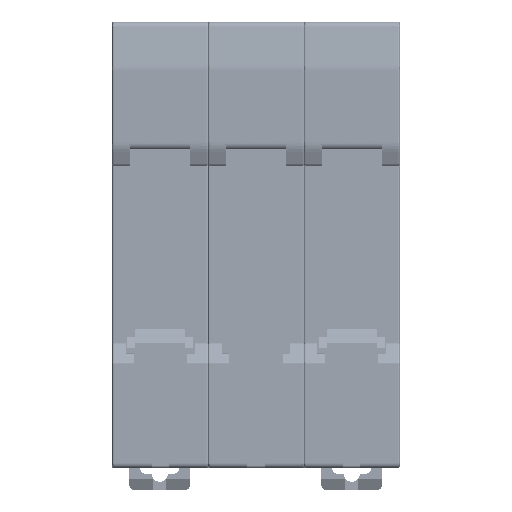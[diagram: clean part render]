
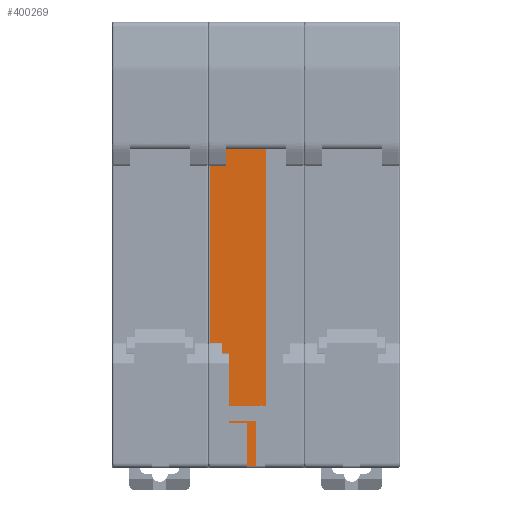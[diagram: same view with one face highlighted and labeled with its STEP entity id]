
A CAD part, left-side view. The second image highlights one B-rep face of the part: STEP entity #400269.
In plain terms, the highlighted planar face has unit normal (-1, 0, 0).
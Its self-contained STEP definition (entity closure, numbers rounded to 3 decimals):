
#1136 = VERTEX_POINT ( 'NONE', #234538 ) ;
#1256 = CARTESIAN_POINT ( 'NONE',  ( 5.5, 35., 10.5 ) ) ;
#4647 = ORIENTED_EDGE ( 'NONE', *, *, #211349, .F. ) ;
#5195 = CARTESIAN_POINT ( 'NONE',  ( 5.5, 35., 57.6 ) ) ;
#5288 = EDGE_CURVE ( 'NONE', #385979, #322072, #307816, .T. ) ;
#9435 = LINE ( 'NONE', #169408, #311618 ) ;
#13591 = VERTEX_POINT ( 'NONE', #399803 ) ;
#14614 = VERTEX_POINT ( 'NONE', #353078 ) ;
#21377 = CARTESIAN_POINT ( 'NONE',  ( 5.5, 24.3, 57.6 ) ) ;
#24129 = DIRECTION ( 'NONE',  ( 0., 0., 1. ) ) ;
#24439 = LINE ( 'NONE', #26426, #65507 ) ;
#24623 = ORIENTED_EDGE ( 'NONE', *, *, #5288, .T. ) ;
#26426 = CARTESIAN_POINT ( 'NONE',  ( 5.5, 33.4, 18.25 ) ) ;
#27771 = EDGE_CURVE ( 'NONE', #50134, #303566, #24439, .T. ) ;
#31351 = ORIENTED_EDGE ( 'NONE', *, *, #73265, .F. ) ;
#31588 = LINE ( 'NONE', #5195, #87133 ) ;
#31700 = CARTESIAN_POINT ( 'NONE',  ( 5.5, 24.3, 10.5 ) ) ;
#37361 = DIRECTION ( 'NONE',  ( 0., -1., 0. ) ) ;
#37622 = LINE ( 'NONE', #1256, #153629 ) ;
#37775 = DIRECTION ( 'NONE',  ( 0., 0., 1. ) ) ;
#39000 = EDGE_CURVE ( 'NONE', #169764, #252499, #37622, .T. ) ;
#39379 = DIRECTION ( 'NONE',  ( 0., 0., -1. ) ) ;
#50134 = VERTEX_POINT ( 'NONE', #111771 ) ;
#53216 = CARTESIAN_POINT ( 'NONE',  ( 5.5, 32.1, 40. ) ) ;
#55212 = VERTEX_POINT ( 'NONE', #124830 ) ;
#55775 = LINE ( 'NONE', #331294, #136066 ) ;
#65507 = VECTOR ( 'NONE', #305962, 1000. ) ;
#70404 = VERTEX_POINT ( 'NONE', #352682 ) ;
#71845 = ORIENTED_EDGE ( 'NONE', *, *, #117505, .F. ) ;
#72461 = EDGE_CURVE ( 'NONE', #13591, #398791, #244189, .T. ) ;
#73265 = EDGE_CURVE ( 'NONE', #55212, #70404, #312908, .T. ) ;
#74841 = ORIENTED_EDGE ( 'NONE', *, *, #39000, .F. ) ;
#76702 = AXIS2_PLACEMENT_3D ( 'NONE', #303836, #90994, #176307 ) ;
#76927 = FACE_OUTER_BOUND ( 'NONE', #243124, .T. ) ;
#77845 = VERTEX_POINT ( 'NONE', #379528 ) ;
#78008 = VECTOR ( 'NONE', #93358, 1000. ) ;
#83027 = EDGE_CURVE ( 'NONE', #77845, #383270, #31588, .T. ) ;
#86138 = DIRECTION ( 'NONE',  ( 0., 0.386, 0.923 ) ) ;
#87133 = VECTOR ( 'NONE', #311127, 1000. ) ;
#87779 = ORIENTED_EDGE ( 'NONE', *, *, #83027, .F. ) ;
#90994 = DIRECTION ( 'NONE',  ( 1., 0., 0. ) ) ;
#93358 = DIRECTION ( 'NONE',  ( 0., 0., 1. ) ) ;
#94326 = VECTOR ( 'NONE', #185300, 1000. ) ;
#103276 = CARTESIAN_POINT ( 'NONE',  ( 5.5, 32.1, 8.9 ) ) ;
#110516 = LINE ( 'NONE', #179399, #192495 ) ;
#111771 = CARTESIAN_POINT ( 'NONE',  ( 5.5, 33.4, 18.25 ) ) ;
#116876 = ORIENTED_EDGE ( 'NONE', *, *, #72461, .F. ) ;
#117505 = EDGE_CURVE ( 'NONE', #398791, #77845, #9435, .T. ) ;
#124452 = CARTESIAN_POINT ( 'NONE',  ( 5.5, 57.843, -0.5 ) ) ;
#124706 = ORIENTED_EDGE ( 'NONE', *, *, #258312, .F. ) ;
#124830 = CARTESIAN_POINT ( 'NONE',  ( 5.5, 31.1, 7.7 ) ) ;
#126555 = ORIENTED_EDGE ( 'NONE', *, *, #194489, .T. ) ;
#132561 = CARTESIAN_POINT ( 'NONE',  ( 5.5, 31.1, 21.4 ) ) ;
#133493 = VECTOR ( 'NONE', #39379, 1000. ) ;
#136066 = VECTOR ( 'NONE', #86138, 1000. ) ;
#141414 = CARTESIAN_POINT ( 'NONE',  ( 5.5, 34.6, 22. ) ) ;
#153629 = VECTOR ( 'NONE', #157258, 1000. ) ;
#157258 = DIRECTION ( 'NONE',  ( 0., 1., 0. ) ) ;
#162633 = DIRECTION ( 'NONE',  ( 0., 0.331, 0.944 ) ) ;
#167561 = DIRECTION ( 'NONE',  ( 0., -0.33, 0.944 ) ) ;
#169408 = CARTESIAN_POINT ( 'NONE',  ( 5.5, 34.6, 187.895 ) ) ;
#169764 = VERTEX_POINT ( 'NONE', #31700 ) ;
#170933 = ORIENTED_EDGE ( 'NONE', *, *, #285221, .F. ) ;
#176307 = DIRECTION ( 'NONE',  ( 0., 0., 1. ) ) ;
#179399 = CARTESIAN_POINT ( 'NONE',  ( 5.5, 24.3, 21.4 ) ) ;
#185300 = DIRECTION ( 'NONE',  ( 0., 1., 0. ) ) ;
#186256 = VECTOR ( 'NONE', #304873, 1000. ) ;
#192495 = VECTOR ( 'NONE', #266650, 1000. ) ;
#192544 = VECTOR ( 'NONE', #37361, 1000. ) ;
#194489 = EDGE_CURVE ( 'NONE', #1136, #70404, #211093, .T. ) ;
#197912 = CARTESIAN_POINT ( 'NONE',  ( 5.5, 33.5, 12.25 ) ) ;
#200651 = PLANE ( 'NONE',  #76702 ) ;
#211093 = LINE ( 'NONE', #241521, #78008 ) ;
#211349 = EDGE_CURVE ( 'NONE', #383270, #169764, #110516, .T. ) ;
#215327 = ORIENTED_EDGE ( 'NONE', *, *, #295376, .F. ) ;
#227030 = VERTEX_POINT ( 'NONE', #237067 ) ;
#234538 = CARTESIAN_POINT ( 'NONE',  ( 5.5, 26.1, -0.5 ) ) ;
#237067 = CARTESIAN_POINT ( 'NONE',  ( 5.5, 33.5, 12.25 ) ) ;
#241521 = CARTESIAN_POINT ( 'NONE',  ( 5.5, 26.1, 40. ) ) ;
#243124 = EDGE_LOOP ( 'NONE', ( #24623, #124706, #126555, #31351, #369333, #74841, #4647, #87779, #71845, #116876, #215327, #322750, #170933, #348956, #290555 ) ) ;
#244189 = LINE ( 'NONE', #367592, #186256 ) ;
#244334 = EDGE_CURVE ( 'NONE', #227030, #14614, #390208, .T. ) ;
#244952 = LINE ( 'NONE', #301710, #368472 ) ;
#250881 = CARTESIAN_POINT ( 'NONE',  ( 5.5, 32.1, -0.5 ) ) ;
#252499 = VERTEX_POINT ( 'NONE', #346594 ) ;
#256258 = LINE ( 'NONE', #132561, #133493 ) ;
#258312 = EDGE_CURVE ( 'NONE', #1136, #322072, #331229, .T. ) ;
#260099 = VECTOR ( 'NONE', #162633, 1000. ) ;
#266650 = DIRECTION ( 'NONE',  ( 0., 0., -1. ) ) ;
#281482 = DIRECTION ( 'NONE',  ( 0., 0., -1. ) ) ;
#285221 = EDGE_CURVE ( 'NONE', #14614, #50134, #346903, .T. ) ;
#290555 = ORIENTED_EDGE ( 'NONE', *, *, #338504, .F. ) ;
#295376 = EDGE_CURVE ( 'NONE', #303566, #13591, #244952, .T. ) ;
#301710 = CARTESIAN_POINT ( 'NONE',  ( 5.5, 32.4, 21.4 ) ) ;
#303566 = VERTEX_POINT ( 'NONE', #303842 ) ;
#303836 = CARTESIAN_POINT ( 'NONE',  ( 5.5, 35., 21.4 ) ) ;
#303842 = CARTESIAN_POINT ( 'NONE',  ( 5.5, 32.4, 18.75 ) ) ;
#304873 = DIRECTION ( 'NONE',  ( 0., 1., 0. ) ) ;
#305962 = DIRECTION ( 'NONE',  ( 0., -0.894, 0.447 ) ) ;
#307816 = LINE ( 'NONE', #53216, #338320 ) ;
#310944 = CARTESIAN_POINT ( 'NONE',  ( 5.5, 35., 7.7 ) ) ;
#311127 = DIRECTION ( 'NONE',  ( 0., -1., 0. ) ) ;
#311618 = VECTOR ( 'NONE', #37775, 1000. ) ;
#312908 = LINE ( 'NONE', #310944, #192544 ) ;
#322072 = VERTEX_POINT ( 'NONE', #250881 ) ;
#322750 = ORIENTED_EDGE ( 'NONE', *, *, #27771, .F. ) ;
#324488 = VECTOR ( 'NONE', #167561, 1000. ) ;
#331229 = LINE ( 'NONE', #124452, #94326 ) ;
#331294 = CARTESIAN_POINT ( 'NONE',  ( 5.5, 32.1, 8.9 ) ) ;
#338320 = VECTOR ( 'NONE', #281482, 1000. ) ;
#338504 = EDGE_CURVE ( 'NONE', #385979, #227030, #55775, .T. ) ;
#346594 = CARTESIAN_POINT ( 'NONE',  ( 5.5, 31.1, 10.5 ) ) ;
#346903 = LINE ( 'NONE', #377277, #260099 ) ;
#348956 = ORIENTED_EDGE ( 'NONE', *, *, #244334, .F. ) ;
#352682 = CARTESIAN_POINT ( 'NONE',  ( 5.5, 26.1, 7.7 ) ) ;
#353078 = CARTESIAN_POINT ( 'NONE',  ( 5.5, 32.4, 15.4 ) ) ;
#367592 = CARTESIAN_POINT ( 'NONE',  ( 5.5, 35., 22. ) ) ;
#368472 = VECTOR ( 'NONE', #24129, 1000. ) ;
#369333 = ORIENTED_EDGE ( 'NONE', *, *, #384245, .F. ) ;
#377277 = CARTESIAN_POINT ( 'NONE',  ( 5.5, 32.4, 15.4 ) ) ;
#379528 = CARTESIAN_POINT ( 'NONE',  ( 5.5, 34.6, 57.6 ) ) ;
#383270 = VERTEX_POINT ( 'NONE', #21377 ) ;
#384245 = EDGE_CURVE ( 'NONE', #252499, #55212, #256258, .T. ) ;
#385979 = VERTEX_POINT ( 'NONE', #103276 ) ;
#390208 = LINE ( 'NONE', #197912, #324488 ) ;
#398791 = VERTEX_POINT ( 'NONE', #141414 ) ;
#399803 = CARTESIAN_POINT ( 'NONE',  ( 5.5, 32.4, 22. ) ) ;
#400269 = ADVANCED_FACE ( 'NONE', ( #76927 ), #200651, .F. ) ;
